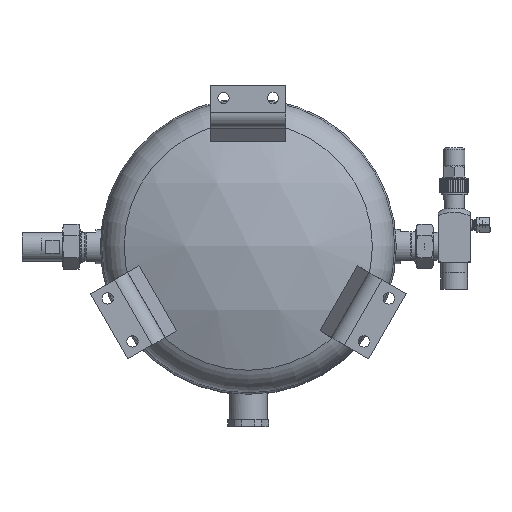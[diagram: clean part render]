
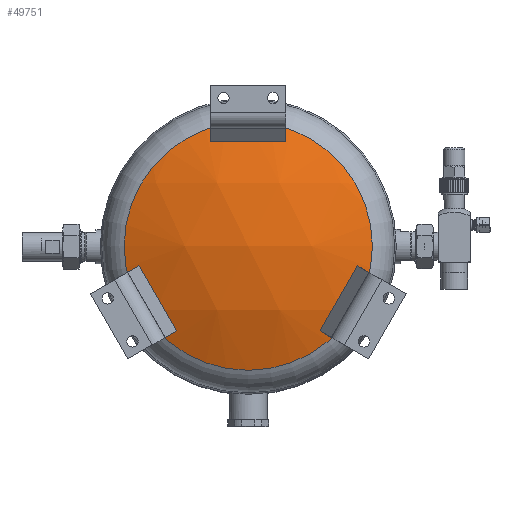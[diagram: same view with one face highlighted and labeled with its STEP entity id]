
A CAD part, top view. The second image highlights one B-rep face of the part: STEP entity #49751.
In plain terms, the highlighted spherical face has radius 281 mm.
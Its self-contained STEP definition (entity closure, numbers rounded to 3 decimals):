
#3648=SPHERICAL_SURFACE('',#53470,281.);
#13720=FACE_OUTER_BOUND('',#16816,.T.);
#16816=EDGE_LOOP('',(#44039));
#18929=CIRCLE('',#53471,115.74);
#23546=VERTEX_POINT('',#103261);
#30534=EDGE_CURVE('',#23546,#23546,#18929,.T.);
#44039=ORIENTED_EDGE('',*,*,#30534,.T.);
#49751=ADVANCED_FACE('',(#13720),#3648,.T.);
#53470=AXIS2_PLACEMENT_3D('',#103260,#63323,#63324);
#53471=AXIS2_PLACEMENT_3D('',#103262,#63325,#63326);
#63323=DIRECTION('center_axis',(0.,-1.,0.));
#63324=DIRECTION('ref_axis',(1.,0.,0.));
#63325=DIRECTION('center_axis',(0.,0.,1.));
#63326=DIRECTION('ref_axis',(-1.,0.,0.));
#103260=CARTESIAN_POINT('Origin',(0.,0.,100.272));
#103261=CARTESIAN_POINT('',(-115.74,0.,356.329));
#103262=CARTESIAN_POINT('Origin',(0.,0.,356.329));
